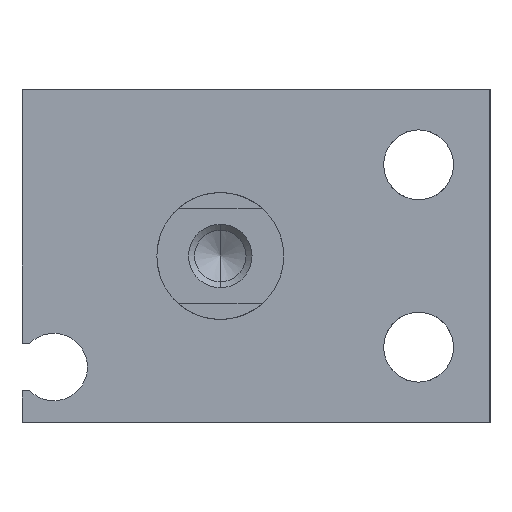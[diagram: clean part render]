
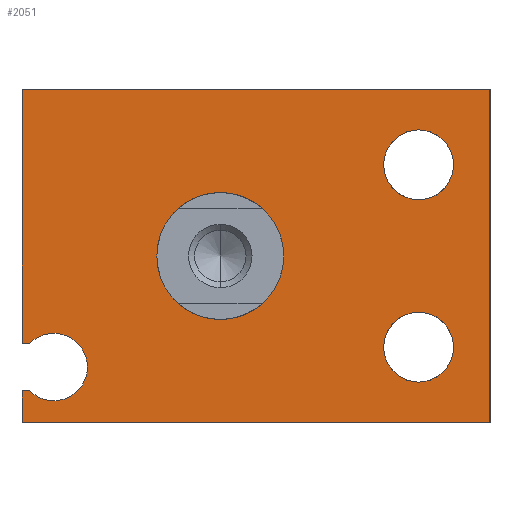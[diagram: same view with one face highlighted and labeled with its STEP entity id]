
A CAD part, left-side view. The second image highlights one B-rep face of the part: STEP entity #2051.
In plain terms, the highlighted planar face has unit normal (-1, 0, 0).
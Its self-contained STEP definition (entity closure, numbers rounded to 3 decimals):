
#15 = AXIS2_PLACEMENT_3D ( 'NONE', #829, #2229, #1502 ) ;
#19 = DIRECTION ( 'NONE',  ( 0., -1., 0. ) ) ;
#37 = AXIS2_PLACEMENT_3D ( 'NONE', #41, #999, #2398 ) ;
#41 = CARTESIAN_POINT ( 'NONE',  ( 0., -12.5, -5.75 ) ) ;
#52 = AXIS2_PLACEMENT_3D ( 'NONE', #1256, #1752, #741 ) ;
#109 = VERTEX_POINT ( 'NONE', #431 ) ;
#115 = VERTEX_POINT ( 'NONE', #2090 ) ;
#143 = CARTESIAN_POINT ( 'NONE',  ( 0., -12.5, -3.55 ) ) ;
#187 = VERTEX_POINT ( 'NONE', #1779 ) ;
#201 = CARTESIAN_POINT ( 'NONE',  ( 0., 0., 4. ) ) ;
#254 = VERTEX_POINT ( 'NONE', #2228 ) ;
#256 = VECTOR ( 'NONE', #19, 1000. ) ;
#263 = EDGE_LOOP ( 'NONE', ( #2773, #1052, #1616, #364, #1207, #1432, #1282, #2277, #1168, #1665 ) ) ;
#267 = DIRECTION ( 'NONE',  ( 0., 0., 1. ) ) ;
#271 = ORIENTED_EDGE ( 'NONE', *, *, #2449, .T. ) ;
#276 = EDGE_CURVE ( 'NONE', #2662, #3032, #1288, .T. ) ;
#287 = CARTESIAN_POINT ( 'NONE',  ( 0., 10.5, -7. ) ) ;
#313 = FACE_OUTER_BOUND ( 'NONE', #263, .T. ) ;
#339 = VECTOR ( 'NONE', #889, 1000. ) ;
#364 = ORIENTED_EDGE ( 'NONE', *, *, #2855, .T. ) ;
#382 = EDGE_LOOP ( 'NONE', ( #2321, #919 ) ) ;
#384 = CARTESIAN_POINT ( 'NONE',  ( 0., 12.5, 10.5 ) ) ;
#403 = AXIS2_PLACEMENT_3D ( 'NONE', #565, #1253, #767 ) ;
#424 = CARTESIAN_POINT ( 'NONE',  ( 0., 12.005, -5.5 ) ) ;
#431 = CARTESIAN_POINT ( 'NONE',  ( 0., 12.5, -5.5 ) ) ;
#447 = EDGE_LOOP ( 'NONE', ( #3037, #3045 ) ) ;
#466 = DIRECTION ( 'NONE',  ( -1., 0., 0. ) ) ;
#468 = EDGE_CURVE ( 'NONE', #928, #115, #1340, .T. ) ;
#500 = VERTEX_POINT ( 'NONE', #1497 ) ;
#502 = DIRECTION ( 'NONE',  ( 0., 0., -1. ) ) ;
#520 = AXIS2_PLACEMENT_3D ( 'NONE', #2721, #2259, #2197 ) ;
#563 = CIRCLE ( 'NONE', #520, 4. ) ;
#565 = CARTESIAN_POINT ( 'NONE',  ( 0., 10.5, -7. ) ) ;
#688 = CIRCLE ( 'NONE', #37, 2.2 ) ;
#736 = CIRCLE ( 'NONE', #1481, 2.2 ) ;
#738 = DIRECTION ( 'NONE',  ( 0., 1., 0. ) ) ;
#740 = VECTOR ( 'NONE', #502, 1000. ) ;
#741 = DIRECTION ( 'NONE',  ( 0., 0., 1. ) ) ;
#757 = CARTESIAN_POINT ( 'NONE',  ( 0., 0., -4. ) ) ;
#767 = DIRECTION ( 'NONE',  ( 0., 0., 1. ) ) ;
#779 = CARTESIAN_POINT ( 'NONE',  ( 0., 10.5, -7. ) ) ;
#811 = PLANE ( 'NONE',  #1960 ) ;
#829 = CARTESIAN_POINT ( 'NONE',  ( 0., 10.5, -7. ) ) ;
#853 = CARTESIAN_POINT ( 'NONE',  ( 0., 12.005, -8.5 ) ) ;
#873 = CARTESIAN_POINT ( 'NONE',  ( 0., -12.5, 7.95 ) ) ;
#889 = DIRECTION ( 'NONE',  ( 0., 1., 0. ) ) ;
#919 = ORIENTED_EDGE ( 'NONE', *, *, #3048, .F. ) ;
#928 = VERTEX_POINT ( 'NONE', #1806 ) ;
#942 = CIRCLE ( 'NONE', #2801, 2.2 ) ;
#945 = VERTEX_POINT ( 'NONE', #853 ) ;
#975 = CARTESIAN_POINT ( 'NONE',  ( 0., 12.5, -8.5 ) ) ;
#978 = LINE ( 'NONE', #1929, #1206 ) ;
#995 = DIRECTION ( 'NONE',  ( 0., 0., 1. ) ) ;
#999 = DIRECTION ( 'NONE',  ( -1., 0., 0. ) ) ;
#1016 = LINE ( 'NONE', #2695, #1334 ) ;
#1019 = FACE_BOUND ( 'NONE', #447, .T. ) ;
#1052 = ORIENTED_EDGE ( 'NONE', *, *, #468, .T. ) ;
#1168 = ORIENTED_EDGE ( 'NONE', *, *, #1646, .T. ) ;
#1206 = VECTOR ( 'NONE', #738, 1000. ) ;
#1207 = ORIENTED_EDGE ( 'NONE', *, *, #1395, .T. ) ;
#1210 = EDGE_CURVE ( 'NONE', #2676, #500, #2254, .T. ) ;
#1211 = LINE ( 'NONE', #2171, #256 ) ;
#1241 = DIRECTION ( 'NONE',  ( 0., 0., 1. ) ) ;
#1253 = DIRECTION ( 'NONE',  ( -1., 0., 0. ) ) ;
#1256 = CARTESIAN_POINT ( 'NONE',  ( 0., -12.5, 5.75 ) ) ;
#1264 = DIRECTION ( 'NONE',  ( 0., 0., 1. ) ) ;
#1282 = ORIENTED_EDGE ( 'NONE', *, *, #2613, .F. ) ;
#1288 = CIRCLE ( 'NONE', #3067, 4. ) ;
#1334 = VECTOR ( 'NONE', #1968, 1000. ) ;
#1340 = LINE ( 'NONE', #2071, #1368 ) ;
#1357 = CARTESIAN_POINT ( 'NONE',  ( 0., 0., 0. ) ) ;
#1360 = CARTESIAN_POINT ( 'NONE',  ( 0., 12.5, -5.5 ) ) ;
#1368 = VECTOR ( 'NONE', #267, 1000. ) ;
#1379 = VERTEX_POINT ( 'NONE', #2329 ) ;
#1395 = EDGE_CURVE ( 'NONE', #109, #2201, #1598, .T. ) ;
#1429 = VERTEX_POINT ( 'NONE', #143 ) ;
#1432 = ORIENTED_EDGE ( 'NONE', *, *, #2609, .F. ) ;
#1481 = AXIS2_PLACEMENT_3D ( 'NONE', #2915, #466, #1241 ) ;
#1497 = CARTESIAN_POINT ( 'NONE',  ( 0., -12.5, 3.55 ) ) ;
#1502 = DIRECTION ( 'NONE',  ( 0., 0., 1. ) ) ;
#1570 = EDGE_CURVE ( 'NONE', #945, #2232, #1951, .T. ) ;
#1580 = DIRECTION ( 'NONE',  ( 0., -1., 0. ) ) ;
#1591 = EDGE_LOOP ( 'NONE', ( #271, #2922 ) ) ;
#1598 = LINE ( 'NONE', #1360, #2763 ) ;
#1616 = ORIENTED_EDGE ( 'NONE', *, *, #2925, .T. ) ;
#1627 = EDGE_CURVE ( 'NONE', #3121, #928, #1211, .T. ) ;
#1642 = DIRECTION ( 'NONE',  ( 0., 0., -1. ) ) ;
#1646 = EDGE_CURVE ( 'NONE', #945, #187, #978, .T. ) ;
#1665 = ORIENTED_EDGE ( 'NONE', *, *, #2707, .T. ) ;
#1736 = DIRECTION ( 'NONE',  ( 0., 0., 1. ) ) ;
#1752 = DIRECTION ( 'NONE',  ( -1., 0., 0. ) ) ;
#1760 = CIRCLE ( 'NONE', #2828, 2.125 ) ;
#1779 = CARTESIAN_POINT ( 'NONE',  ( 0., 12.5, -8.5 ) ) ;
#1806 = CARTESIAN_POINT ( 'NONE',  ( 0., -17., -10.5 ) ) ;
#1929 = CARTESIAN_POINT ( 'NONE',  ( 0., 12.005, -8.5 ) ) ;
#1951 = CIRCLE ( 'NONE', #403, 2.125 ) ;
#1957 = FACE_BOUND ( 'NONE', #1591, .T. ) ;
#1960 = AXIS2_PLACEMENT_3D ( 'NONE', #779, #2486, #1264 ) ;
#1968 = DIRECTION ( 'NONE',  ( 0., 0., -1. ) ) ;
#2051 = ADVANCED_FACE ( 'NONE', ( #313, #1957, #2971, #1019 ), #811, .T. ) ;
#2071 = CARTESIAN_POINT ( 'NONE',  ( 0., -17., -10.5 ) ) ;
#2090 = CARTESIAN_POINT ( 'NONE',  ( 0., -17., 10.5 ) ) ;
#2101 = DIRECTION ( 'NONE',  ( 1., 0., 0. ) ) ;
#2171 = CARTESIAN_POINT ( 'NONE',  ( 0., 12.5, -10.5 ) ) ;
#2197 = DIRECTION ( 'NONE',  ( 0., 0., -1. ) ) ;
#2199 = CARTESIAN_POINT ( 'NONE',  ( 0., 12.5, -10.5 ) ) ;
#2201 = VERTEX_POINT ( 'NONE', #424 ) ;
#2228 = CARTESIAN_POINT ( 'NONE',  ( 0., 10.5, -4.875 ) ) ;
#2229 = DIRECTION ( 'NONE',  ( -1., 0., 0. ) ) ;
#2232 = VERTEX_POINT ( 'NONE', #3003 ) ;
#2254 = CIRCLE ( 'NONE', #52, 2.2 ) ;
#2259 = DIRECTION ( 'NONE',  ( 1., 0., 0. ) ) ;
#2277 = ORIENTED_EDGE ( 'NONE', *, *, #1570, .F. ) ;
#2321 = ORIENTED_EDGE ( 'NONE', *, *, #2832, .F. ) ;
#2329 = CARTESIAN_POINT ( 'NONE',  ( 0., -12.5, -7.95 ) ) ;
#2398 = DIRECTION ( 'NONE',  ( 0., 0., 1. ) ) ;
#2407 = CARTESIAN_POINT ( 'NONE',  ( 0., -12.5, 5.75 ) ) ;
#2425 = LINE ( 'NONE', #975, #740 ) ;
#2433 = VERTEX_POINT ( 'NONE', #384 ) ;
#2449 = EDGE_CURVE ( 'NONE', #3032, #2662, #563, .T. ) ;
#2459 = DIRECTION ( 'NONE',  ( -1., 0., 0. ) ) ;
#2486 = DIRECTION ( 'NONE',  ( -1., 0., 0. ) ) ;
#2609 = EDGE_CURVE ( 'NONE', #254, #2201, #2720, .T. ) ;
#2613 = EDGE_CURVE ( 'NONE', #2232, #254, #1760, .T. ) ;
#2630 = DIRECTION ( 'NONE',  ( -1., 0., 0. ) ) ;
#2662 = VERTEX_POINT ( 'NONE', #201 ) ;
#2676 = VERTEX_POINT ( 'NONE', #873 ) ;
#2695 = CARTESIAN_POINT ( 'NONE',  ( 0., 12.5, 10.5 ) ) ;
#2707 = EDGE_CURVE ( 'NONE', #187, #3121, #2425, .T. ) ;
#2720 = CIRCLE ( 'NONE', #15, 2.125 ) ;
#2721 = CARTESIAN_POINT ( 'NONE',  ( 0., 0., 0. ) ) ;
#2763 = VECTOR ( 'NONE', #1580, 1000. ) ;
#2773 = ORIENTED_EDGE ( 'NONE', *, *, #1627, .T. ) ;
#2801 = AXIS2_PLACEMENT_3D ( 'NONE', #2407, #2630, #995 ) ;
#2828 = AXIS2_PLACEMENT_3D ( 'NONE', #287, #2459, #1736 ) ;
#2832 = EDGE_CURVE ( 'NONE', #1429, #1379, #688, .T. ) ;
#2855 = EDGE_CURVE ( 'NONE', #2433, #109, #1016, .T. ) ;
#2915 = CARTESIAN_POINT ( 'NONE',  ( 0., -12.5, -5.75 ) ) ;
#2922 = ORIENTED_EDGE ( 'NONE', *, *, #276, .T. ) ;
#2925 = EDGE_CURVE ( 'NONE', #115, #2433, #3050, .T. ) ;
#2971 = FACE_BOUND ( 'NONE', #382, .T. ) ;
#3003 = CARTESIAN_POINT ( 'NONE',  ( 0., 10.5, -9.125 ) ) ;
#3032 = VERTEX_POINT ( 'NONE', #757 ) ;
#3037 = ORIENTED_EDGE ( 'NONE', *, *, #1210, .F. ) ;
#3045 = ORIENTED_EDGE ( 'NONE', *, *, #3086, .F. ) ;
#3048 = EDGE_CURVE ( 'NONE', #1379, #1429, #736, .T. ) ;
#3050 = LINE ( 'NONE', #3065, #339 ) ;
#3065 = CARTESIAN_POINT ( 'NONE',  ( 0., -17., 10.5 ) ) ;
#3067 = AXIS2_PLACEMENT_3D ( 'NONE', #1357, #2101, #1642 ) ;
#3086 = EDGE_CURVE ( 'NONE', #500, #2676, #942, .T. ) ;
#3121 = VERTEX_POINT ( 'NONE', #2199 ) ;
